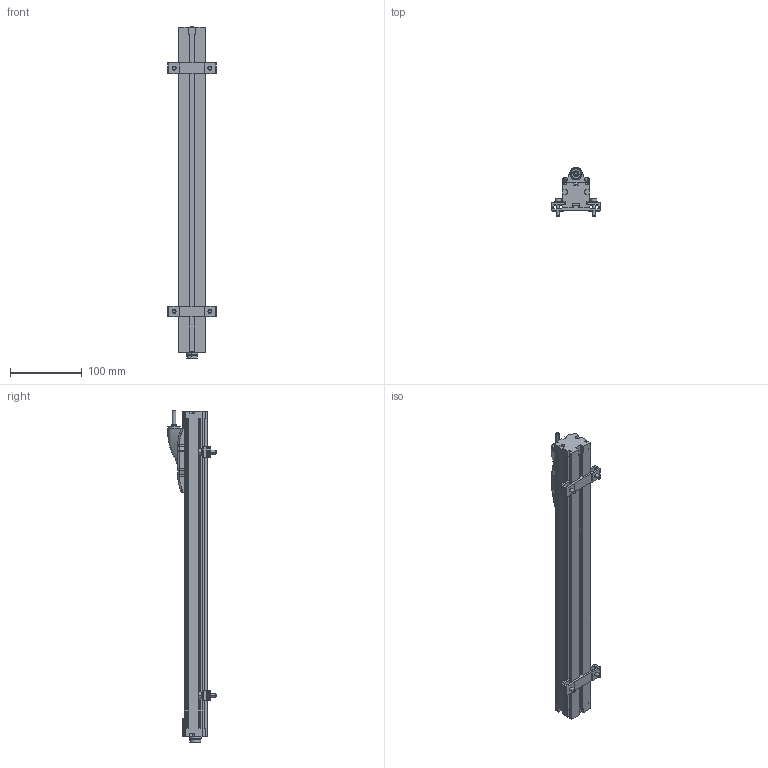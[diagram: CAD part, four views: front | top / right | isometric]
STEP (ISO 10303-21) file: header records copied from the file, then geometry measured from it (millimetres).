
FILE_DESCRIPTION(('STEP AP214'),'1');
FILE_NAME('burster_8718-300_5di86hv4l65oc5yxtnkcmg1f.stp','2017-04-18T16:21:29',('TraceParts'),('TraceParts S.A.'),'Spatial InterOp 3D',' ',' ');
FILE_SCHEMA(('automotive_design'));
Length unit declared in the file: millimetre
Products named in the file (1): burster_8718-300_5di86hv4l65oc5yxtnkcmg1f
Bounding box: 68 x 67.8 x 464 mm (x, y, z)
Volume: 565579.8 mm3; surface area: 112074.7 mm2
Topology: 1 solids, 2 shells, 621 faces, 1753 edges, 1124 vertices
Faces by surface type: plane 330, cylinder 203, cone 32, torus 28, bspline 18, sphere 10
Entity records: 26926 total; most frequent: CARTESIAN_POINT 5684, ORIENTED_EDGE 3450, DIRECTION 3412, EDGE_CURVE 1725, AXIS2_PLACEMENT_3D 1156, VERTEX_POINT 1124, LINE 1100, VECTOR 1100
